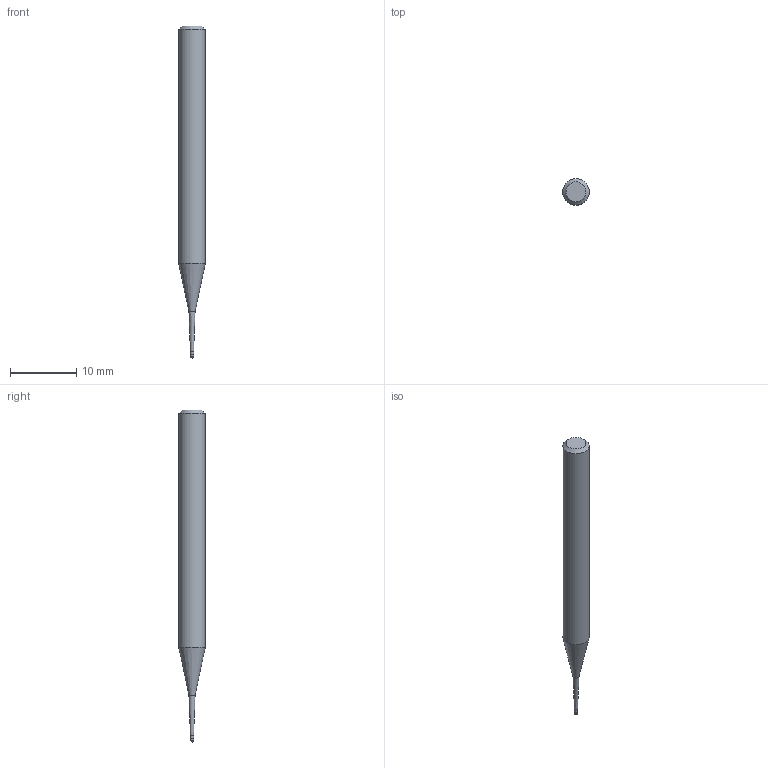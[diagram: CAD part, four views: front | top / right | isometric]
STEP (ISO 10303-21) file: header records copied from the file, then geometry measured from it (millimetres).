
FILE_DESCRIPTION((''),'2;1');
FILE_NAME('C:\Users\nsx150\AppData\Local\Temp\Mastercam 2021\SNAKH10GOD\TEMP.step','2021-10-21T13:31:18',(''),(''),'STEP Write','Mastercam 2021 ... CNC Software, Inc.','');
FILE_SCHEMA(('AUTOMOTIVE_DESIGN'));
Length unit declared in the file: millimetre
Products named in the file (1): None
Bounding box: 4 x 4 x 50 mm (x, y, z)
Volume: 489.4 mm3; surface area: 530.3 mm2
Topology: 2 solids, 2 shells, 10 faces, 16 edges, 9 vertices
Faces by surface type: plane 3, cylinder 3, cone 3, sphere 1
Full cylindrical faces by diameter (mm): 0.485 x1, 0.5 x1, 4 x1
Entity records: 232 total; most frequent: DIRECTION 40, CARTESIAN_POINT 28, AXIS2_PLACEMENT_3D 20, ORIENTED_EDGE 16, EDGE_LOOP 16, STYLED_ITEM 13, ADVANCED_FACE 10, FACE_BOUND 9
